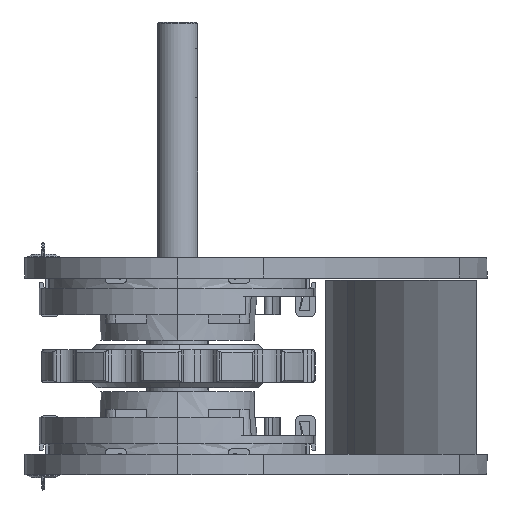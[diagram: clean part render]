
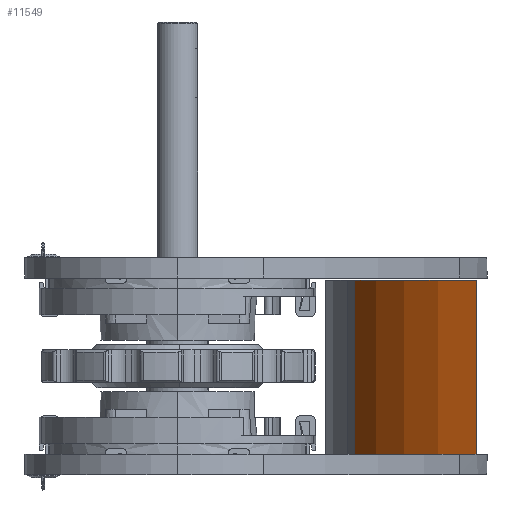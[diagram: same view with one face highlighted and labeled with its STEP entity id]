
A CAD part, left-side view. The second image highlights one B-rep face of the part: STEP entity #11549.
In plain terms, the highlighted cylindrical face has radius 126 mm (diameter 252 mm), a partial arc.
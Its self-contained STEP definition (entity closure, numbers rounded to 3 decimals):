
#5999 = AXIS2_PLACEMENT_3D ( 'NONE', #17294, #17293, #17292 ) ;
#6000 = AXIS2_PLACEMENT_3D ( 'NONE', #17291, #17290, #17289 ) ;
#6898 = DIRECTION ( 'NONE',  ( -0.914, -0.406, 0. ) ) ;
#6899 = DIRECTION ( 'NONE',  ( 0., 0., -1. ) ) ;
#6900 = CARTESIAN_POINT ( 'NONE',  ( 209.152, -161.734, 69.8 ) ) ;
#7774 = AXIS2_PLACEMENT_3D ( 'NONE', #6900, #6899, #6898 ) ;
#8084 = VECTOR ( 'NONE', #17287, 1000. ) ;
#8085 = CIRCLE ( 'NONE', #6000, 126. ) ;
#8087 = LINE ( 'NONE', #17288, #8084 ) ;
#8088 = CIRCLE ( 'NONE', #5999, 126. ) ;
#8090 = VECTOR ( 'NONE', #17296, 1000. ) ;
#8091 = LINE ( 'NONE', #17297, #8090 ) ;
#10000 = ORIENTED_EDGE ( 'NONE', *, *, #21367, .T. ) ;
#10001 = ORIENTED_EDGE ( 'NONE', *, *, #21366, .F. ) ;
#10002 = ORIENTED_EDGE ( 'NONE', *, *, #21368, .F. ) ;
#10003 = ORIENTED_EDGE ( 'NONE', *, *, #21369, .T. ) ;
#11549 = ADVANCED_FACE ( 'NONE', ( #12972 ), #12971, .T. ) ;
#12971 = CYLINDRICAL_SURFACE ( 'NONE', #7774, 126. ) ;
#12972 = FACE_OUTER_BOUND ( 'NONE', #14198, .T. ) ;
#14198 = EDGE_LOOP ( 'NONE', ( #10000, #10001, #10002, #10003 ) ) ;
#17287 = DIRECTION ( 'NONE',  ( 0., 0., -1. ) ) ;
#17288 = CARTESIAN_POINT ( 'NONE',  ( 158.5, -46.364, 69.8 ) ) ;
#17289 = DIRECTION ( 'NONE',  ( 0.914, 0.406, 0. ) ) ;
#17290 = DIRECTION ( 'NONE',  ( 0., 0., 1. ) ) ;
#17291 = CARTESIAN_POINT ( 'NONE',  ( 209.152, -161.734, 69.8 ) ) ;
#17292 = DIRECTION ( 'NONE',  ( 0.914, 0.406, 0. ) ) ;
#17293 = DIRECTION ( 'NONE',  ( 0., 0., 1. ) ) ;
#17294 = CARTESIAN_POINT ( 'NONE',  ( 209.152, -161.734, -15.2 ) ) ;
#17296 = DIRECTION ( 'NONE',  ( 0., 0., -1. ) ) ;
#17297 = CARTESIAN_POINT ( 'NONE',  ( 96.264, -105.767, 69.8 ) ) ;
#18666 = CARTESIAN_POINT ( 'NONE',  ( 158.5, -46.364, 69.8 ) ) ;
#18825 = CARTESIAN_POINT ( 'NONE',  ( 96.264, -105.767, -15.2 ) ) ;
#19000 = CARTESIAN_POINT ( 'NONE',  ( 158.5, -46.364, -15.2 ) ) ;
#19135 = CARTESIAN_POINT ( 'NONE',  ( 96.264, -105.767, 69.8 ) ) ;
#20530 = VERTEX_POINT ( 'NONE', #19135 ) ;
#20627 = VERTEX_POINT ( 'NONE', #19000 ) ;
#20739 = VERTEX_POINT ( 'NONE', #18825 ) ;
#20793 = VERTEX_POINT ( 'NONE', #18666 ) ;
#21366 = EDGE_CURVE ( 'NONE', #20530, #20739, #8091, .T. ) ;
#21367 = EDGE_CURVE ( 'NONE', #20627, #20739, #8088, .T. ) ;
#21368 = EDGE_CURVE ( 'NONE', #20793, #20530, #8085, .T. ) ;
#21369 = EDGE_CURVE ( 'NONE', #20793, #20627, #8087, .T. ) ;
